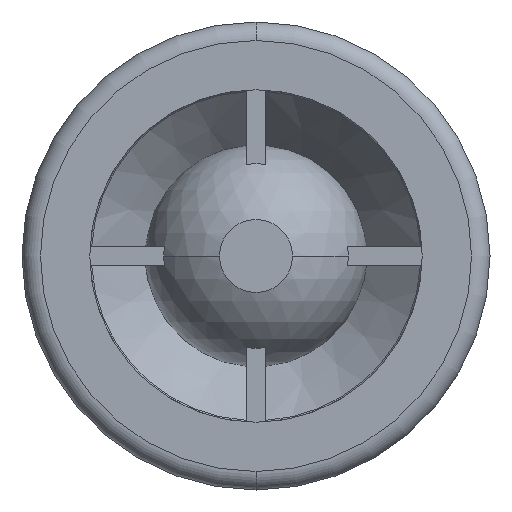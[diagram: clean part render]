
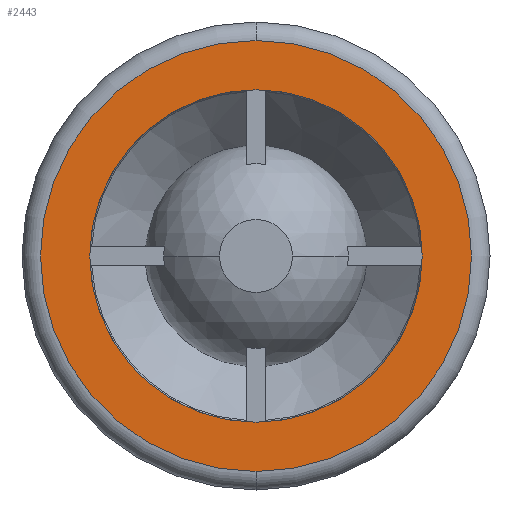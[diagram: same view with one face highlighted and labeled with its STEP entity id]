
A CAD part, front view. The second image highlights one B-rep face of the part: STEP entity #2443.
In plain terms, the highlighted planar face has unit normal (0, -1, 0).
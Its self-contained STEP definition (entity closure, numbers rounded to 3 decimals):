
#105 = VERTEX_POINT ( 'NONE', #432 ) ;
#106 = EDGE_CURVE ( 'NONE', #108, #105, #431, .T. ) ;
#108 = VERTEX_POINT ( 'NONE', #426 ) ;
#217 = EDGE_CURVE ( 'NONE', #218, #219, #648, .T. ) ;
#218 = VERTEX_POINT ( 'NONE', #643 ) ;
#219 = VERTEX_POINT ( 'NONE', #642 ) ;
#240 = EDGE_CURVE ( 'NONE', #105, #108, #662, .T. ) ;
#426 = CARTESIAN_POINT ( 'NONE',  ( 0., 0., 13.5 ) ) ;
#427 = DIRECTION ( 'NONE',  ( 0., 0., -1. ) ) ;
#428 = DIRECTION ( 'NONE',  ( 0., -1., 0. ) ) ;
#429 = CARTESIAN_POINT ( 'NONE',  ( 0., 0., 0. ) ) ;
#430 = AXIS2_PLACEMENT_3D ( 'NONE', #429, #428, #427 ) ;
#431 = CIRCLE ( 'NONE', #430, 13.5 ) ;
#432 = CARTESIAN_POINT ( 'NONE',  ( 0., 0., -13.5 ) ) ;
#642 = CARTESIAN_POINT ( 'NONE',  ( 0., 0., 17.5 ) ) ;
#643 = CARTESIAN_POINT ( 'NONE',  ( 0., 0., -17.5 ) ) ;
#644 = DIRECTION ( 'NONE',  ( 0., 0., 1. ) ) ;
#645 = DIRECTION ( 'NONE',  ( 0., -1., 0. ) ) ;
#646 = CARTESIAN_POINT ( 'NONE',  ( 0., 0., 0. ) ) ;
#647 = AXIS2_PLACEMENT_3D ( 'NONE', #646, #645, #644 ) ;
#648 = CIRCLE ( 'NONE', #647, 17.5 ) ;
#658 = DIRECTION ( 'NONE',  ( 0., 0., -1. ) ) ;
#659 = DIRECTION ( 'NONE',  ( 0., -1., 0. ) ) ;
#660 = CARTESIAN_POINT ( 'NONE',  ( 0., 0., 0. ) ) ;
#661 = AXIS2_PLACEMENT_3D ( 'NONE', #660, #659, #658 ) ;
#662 = CIRCLE ( 'NONE', #661, 13.5 ) ;
#1242 = AXIS2_PLACEMENT_3D ( 'NONE', #1309, #1308, #1307 ) ;
#1243 = PLANE ( 'NONE',  #1242 ) ;
#1244 = FACE_BOUND ( 'NONE', #2441, .T. ) ;
#1245 = FACE_OUTER_BOUND ( 'NONE', #2444, .T. ) ;
#1247 = DIRECTION ( 'NONE',  ( 0., 0., 1. ) ) ;
#1248 = DIRECTION ( 'NONE',  ( 0., -1., 0. ) ) ;
#1249 = CARTESIAN_POINT ( 'NONE',  ( 0., 0., 0. ) ) ;
#1250 = AXIS2_PLACEMENT_3D ( 'NONE', #1249, #1248, #1247 ) ;
#1251 = CIRCLE ( 'NONE', #1250, 17.5 ) ;
#1307 = DIRECTION ( 'NONE',  ( 0., 0., 1. ) ) ;
#1308 = DIRECTION ( 'NONE',  ( 0., 1., 0. ) ) ;
#1309 = CARTESIAN_POINT ( 'NONE',  ( -13.5, 0., 0. ) ) ;
#2436 = ORIENTED_EDGE ( 'NONE', *, *, #240, .F. ) ;
#2437 = ORIENTED_EDGE ( 'NONE', *, *, #106, .F. ) ;
#2438 = ORIENTED_EDGE ( 'NONE', *, *, #217, .T. ) ;
#2439 = EDGE_CURVE ( 'NONE', #219, #218, #1251, .T. ) ;
#2440 = ORIENTED_EDGE ( 'NONE', *, *, #2439, .T. ) ;
#2441 = EDGE_LOOP ( 'NONE', ( #2436, #2437 ) ) ;
#2443 = ADVANCED_FACE ( 'NONE', ( #1245, #1244 ), #1243, .F. ) ;
#2444 = EDGE_LOOP ( 'NONE', ( #2440, #2438 ) ) ;
